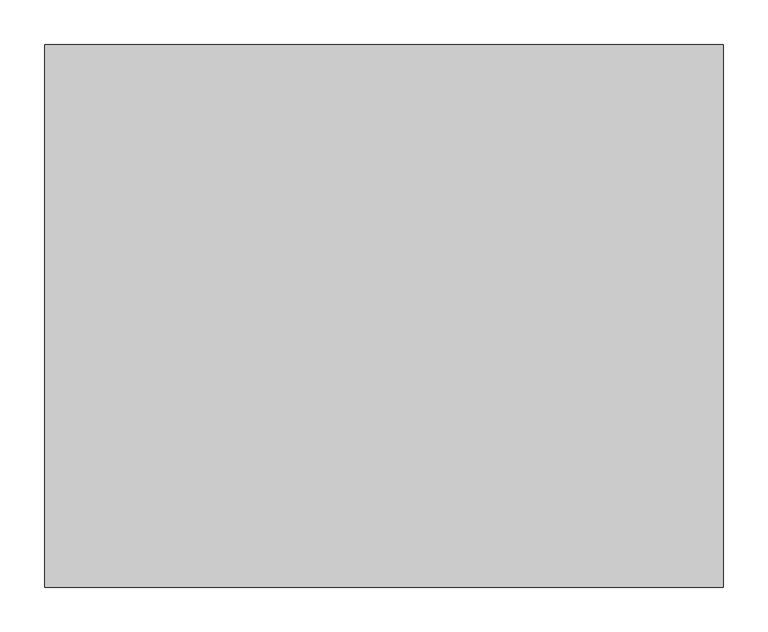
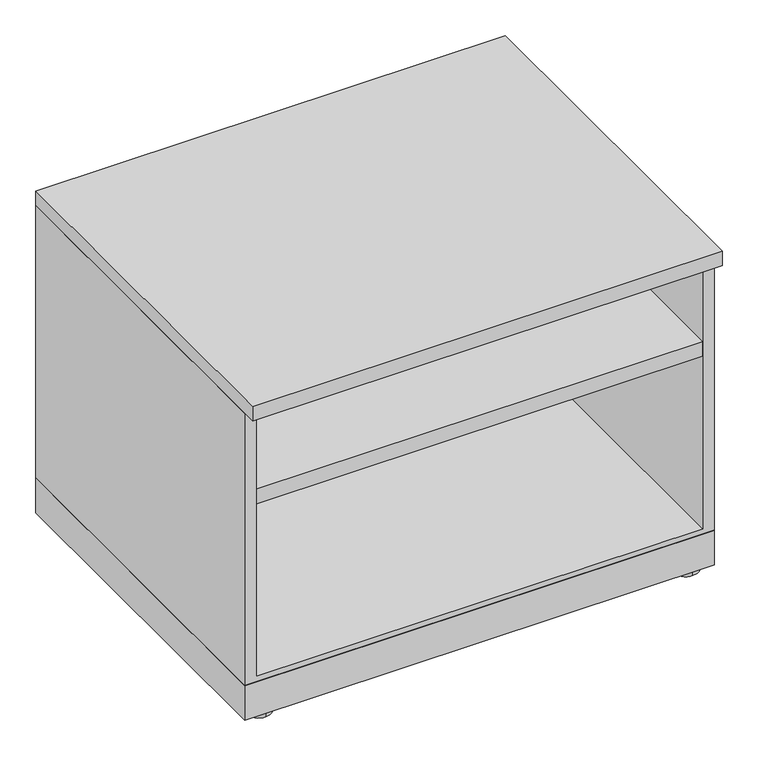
"""IFC4 building model written with IfcOpenShell, lengths in millimetres: furniture geometry, Steelcase - Universal Storage - Lateral File - 1.5 High - Proud Front : Open/Open - 24D x 30W."""

from ifc_helpers import new_model, si_unit, point, frame, frame_2d, origin, origin_with_axes, place, context, project, spatial, polyline, circle_curve, trimmed, segment, composite_curve, outline, extrude, source, transform, mapped, element, save


def furniture_0f366cc2(model_context):
    return source(origin(), model_context, "Body", "SweptSolid", [
        extrude(outline(polyline([(762.0, 0.0), (762.0, -587.502), (0.0, -587.502), (0.0, 0.0), (762.0, 0.0)])), frame((0.0, 0.0, 6.3500002), z_axis=(0.0, 0.0, 1.0), x_axis=(1.0, 0.0, 0.0)), (0.0, 0.0, 1.0), 59.6899998),
        extrude(outline(composite_curve([segment(trimmed(circle_curve(frame_2d((727.3290058, -22.3366334)), 20.32), [point((727.3290058, -42.6566334))], [point((727.3290058, -2.0166334))], False, "CARTESIAN"), True, "CONTINUOUS"), segment(trimmed(circle_curve(frame_2d((727.3290058, -22.3366334)), 20.32), [point((727.3290058, -2.0166334))], [point((727.3290058, -42.6566334))], False, "CARTESIAN"), True, "CONTINUOUS")], self_intersect=False)), origin_with_axes(), (0.0, 0.0, 1.0), 6.3500002),
        extrude(outline(composite_curve([segment(trimmed(circle_curve(frame_2d((727.3290058, -566.7528545)), 20.32), [point((727.3290058, -587.0728545))], [point((727.3290058, -546.4328545))], False, "CARTESIAN"), True, "CONTINUOUS"), segment(trimmed(circle_curve(frame_2d((727.3290058, -566.7528545)), 20.32), [point((727.3290058, -546.4328545))], [point((727.3290058, -587.0728545))], False, "CARTESIAN"), True, "CONTINUOUS")], self_intersect=False)), origin_with_axes(), (0.0, 0.0, 1.0), 6.3500002),
        extrude(outline(composite_curve([segment(trimmed(circle_curve(frame_2d((34.29, -22.3366334)), 20.32), [point((34.29, -2.0166334))], [point((34.29, -42.6566334))], False, "CARTESIAN"), True, "CONTINUOUS"), segment(trimmed(circle_curve(frame_2d((34.29, -22.3366334)), 20.32), [point((34.29, -42.6566334))], [point((34.29, -2.0166334))], False, "CARTESIAN"), True, "CONTINUOUS")], self_intersect=False)), origin_with_axes(), (0.0, 0.0, 1.0), 6.3500002),
        extrude(outline(composite_curve([segment(trimmed(circle_curve(frame_2d((34.29, -566.7528545)), 20.32), [point((34.29, -546.4328545))], [point((34.29, -587.0728545))], False, "CARTESIAN"), True, "CONTINUOUS"), segment(trimmed(circle_curve(frame_2d((34.29, -566.7528545)), 20.32), [point((34.29, -587.0728545))], [point((34.29, -546.4328545))], False, "CARTESIAN"), True, "CONTINUOUS")], self_intersect=False)), origin_with_axes(), (0.0, 0.0, 1.0), 6.3500002),
        extrude(outline(polyline([(533.273, 19.05), (533.273, 0.0), (66.04, 0.0), (66.04, 762.0), (533.273, 762.0), (533.273, 742.95), (75.184001, 742.95), (75.184001, 19.05), (533.273, 19.05)])), frame((0.0, -587.3750121, 0.0), z_axis=(0.0, 1.0, 0.0), x_axis=(0.0, 0.0, 1.0)), (0.0, 0.0, 1.0), 587.3750121),
        extrude(outline(polyline([(742.95, 0.0), (742.95, -3.9370001), (19.05, -3.9370001), (19.05, 0.0), (742.95, 0.0)])), frame((0.0, 0.0, 75.184001), z_axis=(0.0, 0.0, 1.0), x_axis=(1.0, 0.0, 0.0)), (0.0, 0.0, 1.0), 458.088999),
        extrude(outline(polyline([(-16.1036001, 371.5511945), (-587.3750121, 371.5511945), (-587.3750121, 396.8242158), (-19.2785993, 396.8242158), (-19.2785993, 410.7941843), (-16.1036001, 410.7941843), (-16.1036001, 371.5511945)])), frame((19.05, 0.0, 0.0), z_axis=(1.0, 0.0, 0.0), x_axis=(0.0, 1.0, 0.0)), (0.0, 0.0, 1.0), 723.9),
        extrude(outline(polyline([(762.0, 0.0), (762.0, -609.6), (0.0, -609.6), (0.0, 0.0), (762.0, 0.0)])), frame((0.0, 0.0, 533.273), z_axis=(0.0, 0.0, 1.0), x_axis=(1.0, 0.0, 0.0)), (0.0, 0.0, 1.0), 25.399985),
    ])


if __name__ == "__main__":
    model = new_model("IFC4")
    model_context = context("Model", 3, world=origin())
    ifc_project = project(units=[si_unit("LENGTHUNIT", "METRE", prefix="MILLI")], contexts=[model_context])
    site = spatial("IfcSite", under=ifc_project)
    building = spatial("IfcBuilding", under=site)
    placement = place(None, origin())
    furniture_shape = furniture_0f366cc2(model_context)
    element("IfcFurniture", 1, ObjectType="Steelcase - Universal Storage - Lateral File - 1.5 High - Proud Front : Open/Open - 24D x 30W", at=placement, inside=building, context=model_context, shape_type="MappedRepresentation", body=[
        mapped(furniture_shape, transform((0.0, 0.0, 0.0), x_axis=(1.0, 0.0, 0.0), y_axis=(0.0, 1.0, 0.0), z_axis=(0.0, 0.0, 1.0))),
    ])
    save(model, "model.ifc")
